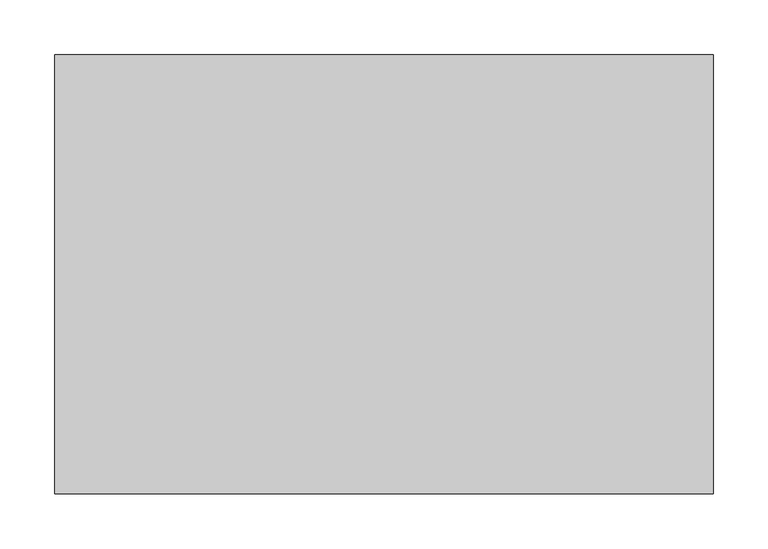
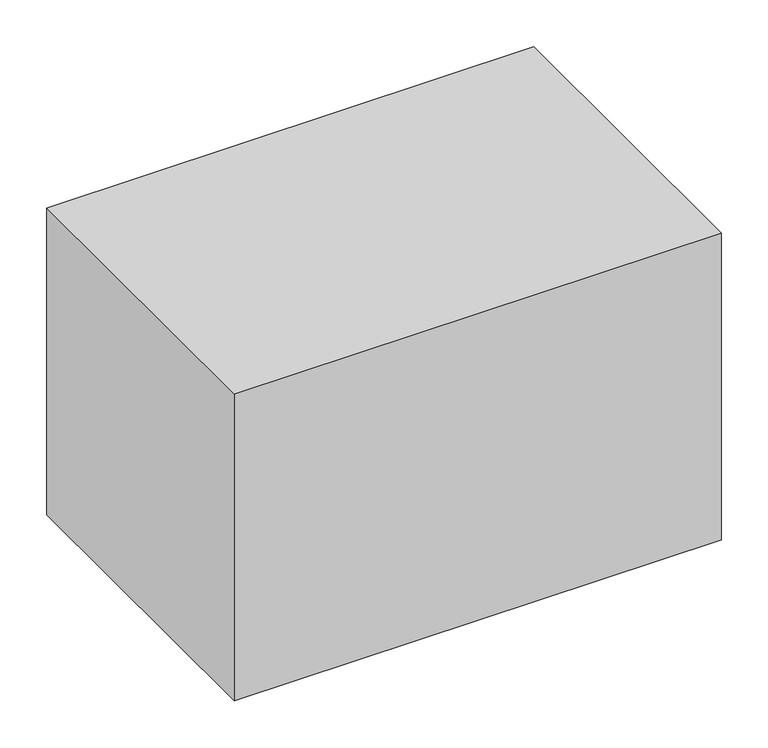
"""IFC4 building model written with IfcOpenShell, lengths in millimetres: proxy geometry, Movél12 : Movél."""

from ifc_helpers import new_model, si_unit, frame, origin, place, context, project, spatial, polyline, outline, extrude, source, transform, mapped, element, save


def generic_models_289941cd(model_context):
    return source(origin(), model_context, "Body", "SweptSolid", [
        extrude(outline(polyline([(19702.7815779, 21855.8218682), (19702.7815779, 21455.8218682), (19102.7815779, 21455.8218682), (19102.7815779, 21855.8218682), (19702.7815779, 21855.8218682)])), frame((0.0, 0.0, 400.0), z_axis=(0.0, 0.0, 1.0), x_axis=(1.0, 0.0, 0.0)), (0.0, 0.0, 1.0), 400.0),
    ])


if __name__ == "__main__":
    model = new_model("IFC4")
    model_context = context("Model", 3, world=origin())
    ifc_project = project(units=[si_unit("LENGTHUNIT", "METRE", prefix="MILLI")], contexts=[model_context])
    site = spatial("IfcSite", under=ifc_project)
    building = spatial("IfcBuilding", under=site)
    placement = place(None, origin())
    generic_models_shape = generic_models_289941cd(model_context)
    element("IfcBuildingElementProxy", 1, Name="Movél12 : Movél", ObjectType="Movél12 : Movél", at=placement, inside=building, context=model_context, shape_type="MappedRepresentation", body=[
        mapped(generic_models_shape, transform((0.0, 0.0, 0.0), x_axis=(1.0, 0.0, 0.0), y_axis=(0.0, 1.0, 0.0), z_axis=(0.0, 0.0, 1.0))),
    ])
    save(model, "model.ifc")
